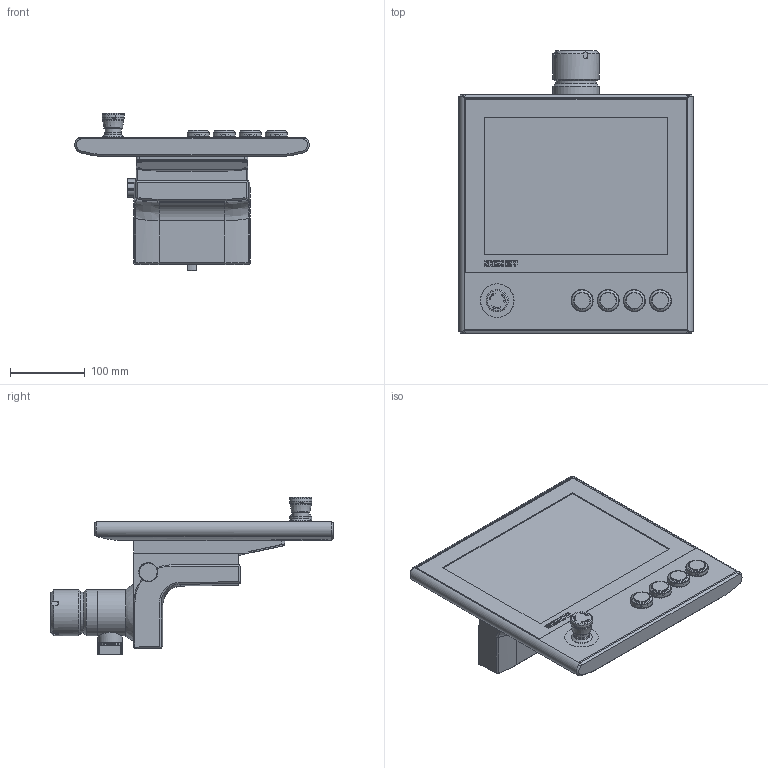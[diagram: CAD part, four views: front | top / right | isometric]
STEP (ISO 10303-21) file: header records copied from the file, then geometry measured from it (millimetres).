
FILE_DESCRIPTION(/* description */ (''),/* implementation_level */ '2;1');
FILE_NAME(/* name */ 'X:\0-inventor\0-3d-Teile\PC-Compo\solids\CP3xxx\0-Ausgabe\CP3912-G022-0010-M752-E274.stp',/* time_stamp */ '2015-11-23T10:41:03+01:00',/* author */ ('christiankreuzer'),/* organization */ ('Design-AG'),/* preprocessor_version */ 'ST-DEVELOPER v16.1',/* originating_system */ 'Autodesk Inventor 2016',/* authorisation */ '');
FILE_SCHEMA (('AUTOMOTIVE_DESIGN { 1 0 10303 214 3 1 1 }'));
Products named in the file (1): CP3912-G022-0010-M752-E274-Step
Bounding box: 314.63 x 379.35 x 211.49 mm (x, y, z)
Volume: 4442049.1 mm3; surface area: 595913.1 mm2
Topology: 11 solids, 29 shells, 1551 faces, 4012 edges, 2599 vertices
Faces by surface type: plane 912, cylinder 321, cone 138, bspline 103, torus 67, sphere 10
Full cylindrical faces by diameter (mm): 3 x12, 3.4 x12, 4.917 x1, 6 x12, 20.917 x1, 21.3 x1, 21.5 x1, 22 x1, 22.2 x1, 22.55 x3, 22.7 x4, 22.8 x1, 23.028 x4, 23.7 x4, 24 x1, 24.8 x4, 25 x1, 25.8 x1, 26.7 x4, 26.8 x1, 28 x1, 28.6 x4, 33 x1, 45 x1, 45.2 x1, 55 x1, 62 x3
Entity records: 50185 total; most frequent: CARTESIAN_POINT 12618, ORIENTED_EDGE 7322, DIRECTION 7126, EDGE_CURVE 3661, VERTEX_POINT 2473, LINE 2376, VECTOR 2376, AXIS2_PLACEMENT_3D 2375
